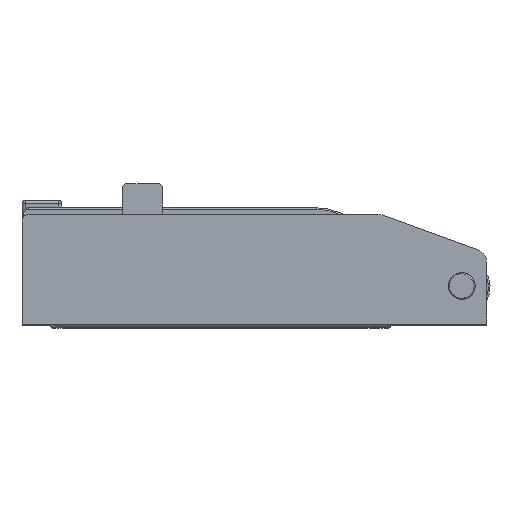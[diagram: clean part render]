
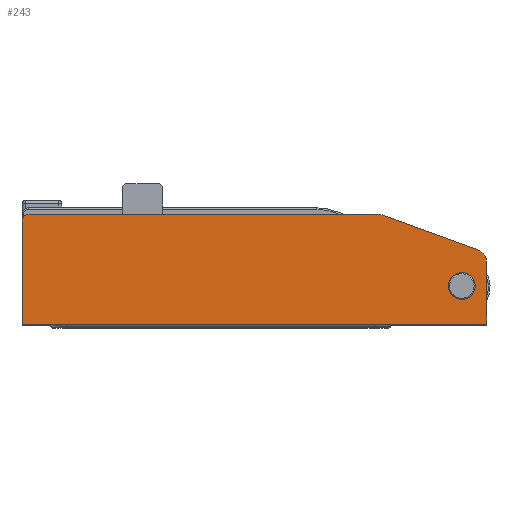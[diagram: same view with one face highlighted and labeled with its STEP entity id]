
A CAD part, top view. The second image highlights one B-rep face of the part: STEP entity #243.
In plain terms, the highlighted planar face has unit normal (0, 0, 1).
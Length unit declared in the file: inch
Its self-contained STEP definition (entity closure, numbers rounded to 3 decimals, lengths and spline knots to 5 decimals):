
#243 = ADVANCED_FACE ( 'NONE', ( #3313, #3335 ), #18716, .T. ) ;
#1514 = EDGE_CURVE ( 'NONE', #15354, #15355, #6451, .T. ) ;
#2289 = EDGE_CURVE ( 'NONE', #15984, #15989, #9507, .T. ) ;
#2291 = EDGE_CURVE ( 'NONE', #15992, #15989, #9510, .T. ) ;
#2293 = EDGE_CURVE ( 'NONE', #15992, #15991, #9514, .T. ) ;
#2301 = EDGE_CURVE ( 'NONE', #15355, #15354, #9529, .T. ) ;
#2303 = EDGE_CURVE ( 'NONE', #15999, #15991, #9532, .T. ) ;
#2310 = EDGE_CURVE ( 'NONE', #15984, #16007, #9546, .T. ) ;
#2378 = EDGE_CURVE ( 'NONE', #16036, #16007, #9654, .T. ) ;
#2379 = EDGE_CURVE ( 'NONE', #16034, #16036, #9656, .T. ) ;
#2380 = EDGE_CURVE ( 'NONE', #15999, #16034, #9658, .T. ) ;
#2712 = AXIS2_PLACEMENT_3D ( 'NONE', #18750, #18831, #18825 ) ;
#3313 = FACE_BOUND ( 'NONE', #18226, .T. ) ;
#3335 = FACE_OUTER_BOUND ( 'NONE', #18250, .T. ) ;
#5393 = AXIS2_PLACEMENT_3D ( 'NONE', #7758, #7759, #7760 ) ;
#5667 = AXIS2_PLACEMENT_3D ( 'NONE', #10800, #10801, #10802 ) ;
#5668 = AXIS2_PLACEMENT_3D ( 'NONE', #10809, #10810, #10811 ) ;
#5669 = AXIS2_PLACEMENT_3D ( 'NONE', #10825, #10826, #10827 ) ;
#5698 = AXIS2_PLACEMENT_3D ( 'NONE', #11015, #11016, #11017 ) ;
#6451 = CIRCLE ( 'NONE', #5393, 0.2505 ) ;
#7758 = CARTESIAN_POINT ( 'NONE',  ( -0.464, 0.715, 1.125 ) ) ;
#7759 = DIRECTION ( 'NONE',  ( 0., 0., 1. ) ) ;
#7760 = DIRECTION ( 'NONE',  ( 1., 0., 0. ) ) ;
#9507 = CIRCLE ( 'NONE', #5667, 0.25 ) ;
#9510 = LINE ( 'NONE', #10803, #9513 ) ;
#9513 = VECTOR ( 'NONE', #10804, 39.37008 ) ;
#9514 = CIRCLE ( 'NONE', #5668, 0.25 ) ;
#9529 = CIRCLE ( 'NONE', #5669, 0.2505 ) ;
#9532 = LINE ( 'NONE', #10828, #9535 ) ;
#9535 = VECTOR ( 'NONE', #10829, 39.37008 ) ;
#9546 = LINE ( 'NONE', #10841, #9549 ) ;
#9549 = VECTOR ( 'NONE', #10842, 39.37008 ) ;
#9654 = LINE ( 'NONE', #11009, #9657 ) ;
#9656 = LINE ( 'NONE', #11011, #9659 ) ;
#9657 = VECTOR ( 'NONE', #11010, 39.37008 ) ;
#9658 = CIRCLE ( 'NONE', #5698, 0.13 ) ;
#9659 = VECTOR ( 'NONE', #11012, 39.37008 ) ;
#10800 = CARTESIAN_POINT ( 'NONE',  ( -0.25, 1.16201, 1.125 ) ) ;
#10801 = DIRECTION ( 'NONE',  ( 0., 0., 1. ) ) ;
#10802 = DIRECTION ( 'NONE',  ( 1., 0., 0. ) ) ;
#10803 = CARTESIAN_POINT ( 'NONE',  ( -2., 2.065, 1.125 ) ) ;
#10804 = DIRECTION ( 'NONE',  ( 0.94, -0.342, 0. ) ) ;
#10809 = CARTESIAN_POINT ( 'NONE',  ( -2.04408, 1.815, 1.125 ) ) ;
#10810 = DIRECTION ( 'NONE',  ( 0., 0., 1. ) ) ;
#10811 = DIRECTION ( 'NONE',  ( 1., 0., 0. ) ) ;
#10825 = CARTESIAN_POINT ( 'NONE',  ( -0.464, 0.715, 1.125 ) ) ;
#10826 = DIRECTION ( 'NONE',  ( 0., 0., 1. ) ) ;
#10827 = DIRECTION ( 'NONE',  ( 1., 0., 0. ) ) ;
#10828 = CARTESIAN_POINT ( 'NONE',  ( -8.719, 2.065, 1.125 ) ) ;
#10829 = DIRECTION ( 'NONE',  ( 1., 0., 0. ) ) ;
#10841 = CARTESIAN_POINT ( 'NONE',  ( 0., 0., 1.125 ) ) ;
#10842 = DIRECTION ( 'NONE',  ( 0., -1., 0. ) ) ;
#11009 = CARTESIAN_POINT ( 'NONE',  ( -8.719, 0., 1.125 ) ) ;
#11010 = DIRECTION ( 'NONE',  ( 1., 0., 0. ) ) ;
#11011 = CARTESIAN_POINT ( 'NONE',  ( -8.719, 0., 1.125 ) ) ;
#11012 = DIRECTION ( 'NONE',  ( 0., -1., 0. ) ) ;
#11015 = CARTESIAN_POINT ( 'NONE',  ( -8.589, 1.935, 1.125 ) ) ;
#11016 = DIRECTION ( 'NONE',  ( 0., 0., 1. ) ) ;
#11017 = DIRECTION ( 'NONE',  ( 1., 0., 0. ) ) ;
#12222 = CARTESIAN_POINT ( 'NONE',  ( -0.7145, 0.715, 1.125 ) ) ;
#12223 = CARTESIAN_POINT ( 'NONE',  ( -0.2135, 0.715, 1.125 ) ) ;
#12852 = CARTESIAN_POINT ( 'NONE',  ( 0., 1.16201, 1.125 ) ) ;
#12857 = CARTESIAN_POINT ( 'NONE',  ( -0.16449, 1.39693, 1.125 ) ) ;
#12859 = CARTESIAN_POINT ( 'NONE',  ( -2.04408, 2.065, 1.125 ) ) ;
#12860 = CARTESIAN_POINT ( 'NONE',  ( -1.95858, 2.04992, 1.125 ) ) ;
#12867 = CARTESIAN_POINT ( 'NONE',  ( -8.589, 2.065, 1.125 ) ) ;
#12875 = CARTESIAN_POINT ( 'NONE',  ( 0., 0., 1.125 ) ) ;
#12902 = CARTESIAN_POINT ( 'NONE',  ( -8.719, 1.935, 1.125 ) ) ;
#12904 = CARTESIAN_POINT ( 'NONE',  ( -8.719, 0., 1.125 ) ) ;
#14523 = ORIENTED_EDGE ( 'NONE', *, *, #2301, .F. ) ;
#14524 = ORIENTED_EDGE ( 'NONE', *, *, #1514, .F. ) ;
#14525 = ORIENTED_EDGE ( 'NONE', *, *, #2303, .F. ) ;
#14526 = ORIENTED_EDGE ( 'NONE', *, *, #2380, .T. ) ;
#14527 = ORIENTED_EDGE ( 'NONE', *, *, #2379, .T. ) ;
#14528 = ORIENTED_EDGE ( 'NONE', *, *, #2378, .T. ) ;
#14529 = ORIENTED_EDGE ( 'NONE', *, *, #2310, .F. ) ;
#14530 = ORIENTED_EDGE ( 'NONE', *, *, #2289, .T. ) ;
#14531 = ORIENTED_EDGE ( 'NONE', *, *, #2291, .F. ) ;
#14532 = ORIENTED_EDGE ( 'NONE', *, *, #2293, .T. ) ;
#15354 = VERTEX_POINT ( 'NONE', #12222 ) ;
#15355 = VERTEX_POINT ( 'NONE', #12223 ) ;
#15984 = VERTEX_POINT ( 'NONE', #12852 ) ;
#15989 = VERTEX_POINT ( 'NONE', #12857 ) ;
#15991 = VERTEX_POINT ( 'NONE', #12859 ) ;
#15992 = VERTEX_POINT ( 'NONE', #12860 ) ;
#15999 = VERTEX_POINT ( 'NONE', #12867 ) ;
#16007 = VERTEX_POINT ( 'NONE', #12875 ) ;
#16034 = VERTEX_POINT ( 'NONE', #12902 ) ;
#16036 = VERTEX_POINT ( 'NONE', #12904 ) ;
#18226 = EDGE_LOOP ( 'NONE', ( #14523, #14524 ) ) ;
#18250 = EDGE_LOOP ( 'NONE', ( #14525, #14526, #14527, #14528, #14529, #14530, #14531, #14532 ) ) ;
#18716 = PLANE ( 'NONE',  #2712 ) ;
#18750 = CARTESIAN_POINT ( 'NONE',  ( -8.719, 0., 1.125 ) ) ;
#18825 = DIRECTION ( 'NONE',  ( 1., 0., 0. ) ) ;
#18831 = DIRECTION ( 'NONE',  ( 0., 0., 1. ) ) ;
